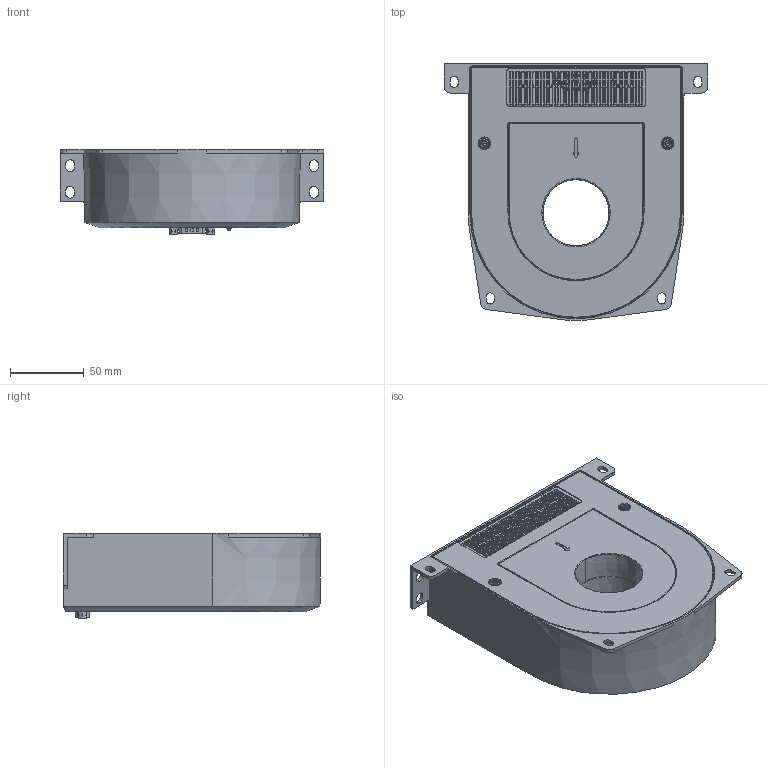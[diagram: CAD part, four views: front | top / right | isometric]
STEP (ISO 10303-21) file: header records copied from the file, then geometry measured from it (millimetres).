
FILE_DESCRIPTION (( 'STEP AP214' ), '1' );
FILE_NAME ('1212100019_DM1200ID.STEP', '2019-04-09T12:37:50', ( '' ), ( '' ), 'SwSTEP 2.0', 'SolidWorks 2019', '' );
FILE_SCHEMA (( 'AUTOMOTIVE_DESIGN' ));
Length unit declared in the file: millimetre
Products named in the file (1): 1212100019_DM1200ID
Bounding box: 178.6 x 173.92 x 57.6 mm (x, y, z)
Surface area: 100811.8 mm2 (no closed solid volume)
Topology: 0 solids, 11 shells, 1135 faces, 3439 edges, 2232 vertices
Faces by surface type: plane 487, cone 317, cylinder 183, bspline 114, torus 32, sphere 2
Entity records: 58347 total; most frequent: CARTESIAN_POINT 17448, ORIENTED_EDGE 5661, DIRECTION 5332, EDGE_CURVE 3415, VERTEX_POINT 2231, LINE 1870, VECTOR 1870, AXIS2_PLACEMENT_3D 1731
